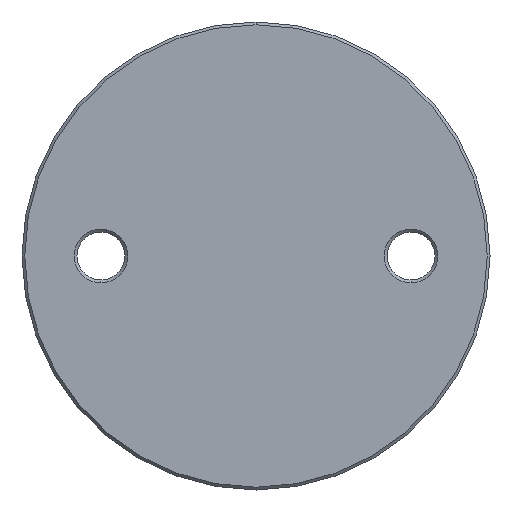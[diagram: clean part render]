
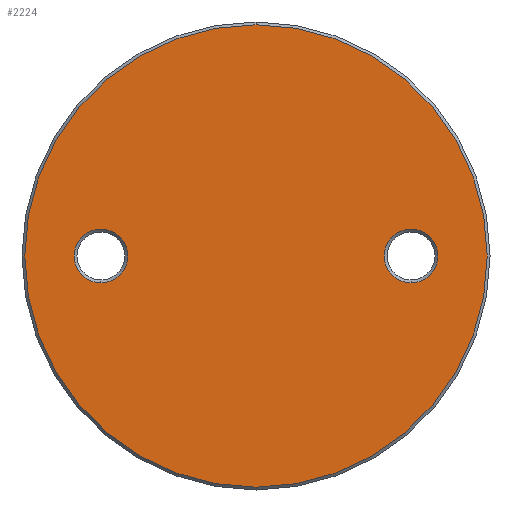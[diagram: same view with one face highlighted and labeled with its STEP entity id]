
A CAD part, front view. The second image highlights one B-rep face of the part: STEP entity #2224.
In plain terms, the highlighted planar face has unit normal (0, -1, 0).
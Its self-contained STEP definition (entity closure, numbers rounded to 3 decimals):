
#86 = VERTEX_POINT ( 'NONE', #2720 ) ;
#126 = CIRCLE ( 'NONE', #2352, 41. ) ;
#427 = DIRECTION ( 'NONE',  ( 0., -1., 0. ) ) ;
#460 = EDGE_CURVE ( 'NONE', #1401, #1869, #1475, .T. ) ;
#504 = ORIENTED_EDGE ( 'NONE', *, *, #2647, .T. ) ;
#566 = ORIENTED_EDGE ( 'NONE', *, *, #1505, .T. ) ;
#636 = DIRECTION ( 'NONE',  ( 0., 0., -1. ) ) ;
#713 = ORIENTED_EDGE ( 'NONE', *, *, #4169, .T. ) ;
#804 = CIRCLE ( 'NONE', #3826, 4.75 ) ;
#807 = FACE_BOUND ( 'NONE', #4149, .T. ) ;
#886 = VERTEX_POINT ( 'NONE', #1603 ) ;
#985 = EDGE_LOOP ( 'NONE', ( #1533, #566 ) ) ;
#1064 = CARTESIAN_POINT ( 'NONE',  ( 27.5, -3., 4.75 ) ) ;
#1214 = DIRECTION ( 'NONE',  ( 0., 1., 0. ) ) ;
#1260 = CARTESIAN_POINT ( 'NONE',  ( -27.5, -3., 0. ) ) ;
#1268 = CARTESIAN_POINT ( 'NONE',  ( -27.5, -3., 4.75 ) ) ;
#1358 = AXIS2_PLACEMENT_3D ( 'NONE', #2047, #427, #4067 ) ;
#1371 = EDGE_CURVE ( 'NONE', #886, #3548, #2740, .T. ) ;
#1378 = AXIS2_PLACEMENT_3D ( 'NONE', #2907, #1910, #2543 ) ;
#1401 = VERTEX_POINT ( 'NONE', #3726 ) ;
#1475 = CIRCLE ( 'NONE', #1378, 4.75 ) ;
#1505 = EDGE_CURVE ( 'NONE', #1869, #1401, #4312, .T. ) ;
#1533 = ORIENTED_EDGE ( 'NONE', *, *, #460, .T. ) ;
#1569 = DIRECTION ( 'NONE',  ( 0., 0., -1. ) ) ;
#1603 = CARTESIAN_POINT ( 'NONE',  ( 0., -3., 41. ) ) ;
#1650 = FACE_OUTER_BOUND ( 'NONE', #3984, .T. ) ;
#1695 = ORIENTED_EDGE ( 'NONE', *, *, #1371, .T. ) ;
#1750 = DIRECTION ( 'NONE',  ( 0., -1., 0. ) ) ;
#1766 = ORIENTED_EDGE ( 'NONE', *, *, #2448, .T. ) ;
#1869 = VERTEX_POINT ( 'NONE', #1064 ) ;
#1897 = CARTESIAN_POINT ( 'NONE',  ( 0., -3., 41.5 ) ) ;
#1910 = DIRECTION ( 'NONE',  ( 0., 1., 0. ) ) ;
#2047 = CARTESIAN_POINT ( 'NONE',  ( 0., -3., 0. ) ) ;
#2059 = FACE_BOUND ( 'NONE', #985, .T. ) ;
#2224 = ADVANCED_FACE ( 'NONE', ( #2059, #807, #1650 ), #4322, .T. ) ;
#2241 = DIRECTION ( 'NONE',  ( 0., -1., 0. ) ) ;
#2281 = VERTEX_POINT ( 'NONE', #1268 ) ;
#2300 = AXIS2_PLACEMENT_3D ( 'NONE', #1897, #2241, #3609 ) ;
#2352 = AXIS2_PLACEMENT_3D ( 'NONE', #2764, #1750, #2403 ) ;
#2403 = DIRECTION ( 'NONE',  ( 0., 0., -1. ) ) ;
#2448 = EDGE_CURVE ( 'NONE', #3548, #886, #126, .T. ) ;
#2543 = DIRECTION ( 'NONE',  ( 0., 0., -1. ) ) ;
#2623 = DIRECTION ( 'NONE',  ( 0., 1., 0. ) ) ;
#2647 = EDGE_CURVE ( 'NONE', #2281, #86, #804, .T. ) ;
#2720 = CARTESIAN_POINT ( 'NONE',  ( -27.5, -3., -4.75 ) ) ;
#2740 = CIRCLE ( 'NONE', #1358, 41. ) ;
#2758 = AXIS2_PLACEMENT_3D ( 'NONE', #2828, #3124, #3451 ) ;
#2764 = CARTESIAN_POINT ( 'NONE',  ( 0., -3., 0. ) ) ;
#2828 = CARTESIAN_POINT ( 'NONE',  ( 27.5, -3., 0. ) ) ;
#2907 = CARTESIAN_POINT ( 'NONE',  ( 27.5, -3., 0. ) ) ;
#3124 = DIRECTION ( 'NONE',  ( 0., 1., 0. ) ) ;
#3451 = DIRECTION ( 'NONE',  ( 0., 0., -1. ) ) ;
#3548 = VERTEX_POINT ( 'NONE', #3915 ) ;
#3583 = CIRCLE ( 'NONE', #3725, 4.75 ) ;
#3609 = DIRECTION ( 'NONE',  ( 0., 0., -1. ) ) ;
#3725 = AXIS2_PLACEMENT_3D ( 'NONE', #3997, #2623, #636 ) ;
#3726 = CARTESIAN_POINT ( 'NONE',  ( 27.5, -3., -4.75 ) ) ;
#3826 = AXIS2_PLACEMENT_3D ( 'NONE', #1260, #1214, #1569 ) ;
#3915 = CARTESIAN_POINT ( 'NONE',  ( 0., -3., -41. ) ) ;
#3984 = EDGE_LOOP ( 'NONE', ( #1695, #1766 ) ) ;
#3997 = CARTESIAN_POINT ( 'NONE',  ( -27.5, -3., 0. ) ) ;
#4067 = DIRECTION ( 'NONE',  ( 0., 0., -1. ) ) ;
#4149 = EDGE_LOOP ( 'NONE', ( #713, #504 ) ) ;
#4169 = EDGE_CURVE ( 'NONE', #86, #2281, #3583, .T. ) ;
#4312 = CIRCLE ( 'NONE', #2758, 4.75 ) ;
#4322 = PLANE ( 'NONE',  #2300 ) ;
